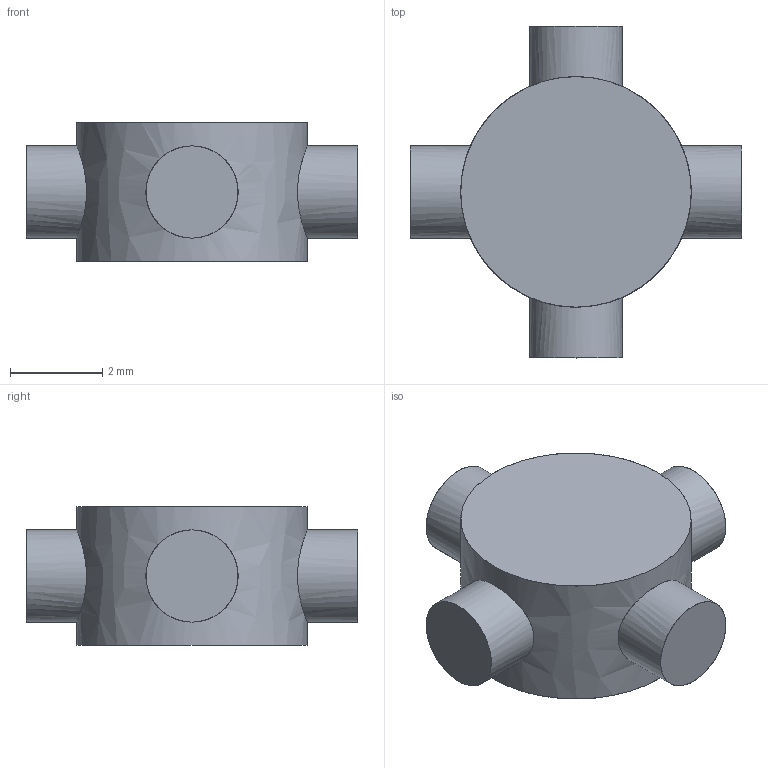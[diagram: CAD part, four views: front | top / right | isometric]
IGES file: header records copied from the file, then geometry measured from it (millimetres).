
Start section: C
Global section: file name: ClGray_4525904_b)_AVV.iges; native system: By Siemens PLM Incorporated; preprocessor: XPlus GENERIC/IGES 26.1.183; author: Author; organization: Title; date: 20250721.235550; units: millimetre
Bounding box: 7.2 x 7.2 x 3 mm (x, y, z)
Surface area: 116.4 mm2 (no closed solid volume)
Topology: 0 solids, 0 shells, 11 faces, 46 edges, 45 vertices
Faces by surface type: bspline 11
